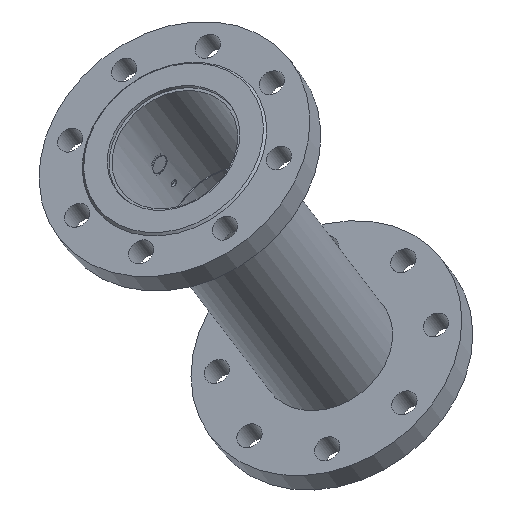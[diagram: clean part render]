
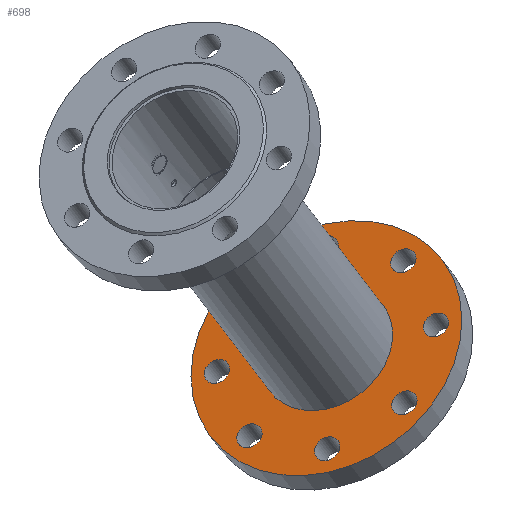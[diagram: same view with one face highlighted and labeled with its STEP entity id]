
A CAD part, isometric view. The second image highlights one B-rep face of the part: STEP entity #698.
In plain terms, the highlighted planar face has unit normal (-0.522, 0, 0.853) as drawn and (0, 0, -1) by its records, which use the part's own axes.
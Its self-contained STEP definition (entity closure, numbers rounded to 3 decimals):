
#698 = ADVANCED_FACE( '', ( #1468, #1469, #1470, #1471, #1472, #1473, #1474, #1475, #1476, #1477 ), #1478, .T. );
#1468 = FACE_BOUND( '', #3957, .T. );
#1469 = FACE_BOUND( '', #3958, .T. );
#1470 = FACE_BOUND( '', #3959, .T. );
#1471 = FACE_BOUND( '', #3960, .T. );
#1472 = FACE_BOUND( '', #3961, .T. );
#1473 = FACE_BOUND( '', #3962, .T. );
#1474 = FACE_BOUND( '', #3963, .T. );
#1475 = FACE_BOUND( '', #3964, .T. );
#1476 = FACE_BOUND( '', #3965, .T. );
#1477 = FACE_OUTER_BOUND( '', #3966, .T. );
#1478 = PLANE( '', #3967 );
#3957 = EDGE_LOOP( '', ( #6861 ) );
#3958 = EDGE_LOOP( '', ( #6862 ) );
#3959 = EDGE_LOOP( '', ( #6863 ) );
#3960 = EDGE_LOOP( '', ( #6864 ) );
#3961 = EDGE_LOOP( '', ( #6865 ) );
#3962 = EDGE_LOOP( '', ( #6866 ) );
#3963 = EDGE_LOOP( '', ( #6867 ) );
#3964 = EDGE_LOOP( '', ( #6868 ) );
#3965 = EDGE_LOOP( '', ( #6869 ) );
#3966 = EDGE_LOOP( '', ( #6870 ) );
#3967 = AXIS2_PLACEMENT_3D( '', #6871, #6872, #6873 );
#6861 = ORIENTED_EDGE( '', *, *, #8488, .F. );
#6862 = ORIENTED_EDGE( '', *, *, #8489, .F. );
#6863 = ORIENTED_EDGE( '', *, *, #8123, .F. );
#6864 = ORIENTED_EDGE( '', *, *, #8116, .F. );
#6865 = ORIENTED_EDGE( '', *, *, #8490, .F. );
#6866 = ORIENTED_EDGE( '', *, *, #8251, .F. );
#6867 = ORIENTED_EDGE( '', *, *, #8491, .F. );
#6868 = ORIENTED_EDGE( '', *, *, #8179, .F. );
#6869 = ORIENTED_EDGE( '', *, *, #8492, .T. );
#6870 = ORIENTED_EDGE( '', *, *, #8306, .F. );
#6871 = CARTESIAN_POINT( '', ( 57.5, 0., 0. ) );
#6872 = DIRECTION( '', ( 0., 0., -1. ) );
#6873 = DIRECTION( '', ( -1., 0., 0. ) );
#8116 = EDGE_CURVE( '', #9022, #9022, #9023, .T. );
#8123 = EDGE_CURVE( '', #9033, #9033, #9034, .T. );
#8179 = EDGE_CURVE( '', #9126, #9126, #9127, .T. );
#8251 = EDGE_CURVE( '', #9239, #9239, #9240, .T. );
#8306 = EDGE_CURVE( '', #9322, #9322, #9323, .T. );
#8488 = EDGE_CURVE( '', #9596, #9596, #9597, .T. );
#8489 = EDGE_CURVE( '', #9598, #9598, #9599, .T. );
#8490 = EDGE_CURVE( '', #9600, #9600, #9601, .T. );
#8491 = EDGE_CURVE( '', #9602, #9602, #9603, .T. );
#8492 = EDGE_CURVE( '', #9604, #9604, #9605, .T. );
#9022 = VERTEX_POINT( '', #10554 );
#9023 = CIRCLE( '', #10555, 11. );
#9033 = VERTEX_POINT( '', #10606 );
#9034 = CIRCLE( '', #10607, 11. );
#9126 = VERTEX_POINT( '', #10803 );
#9127 = CIRCLE( '', #10804, 11. );
#9239 = VERTEX_POINT( '', #11029 );
#9240 = CIRCLE( '', #11030, 11. );
#9322 = VERTEX_POINT( '', #11333 );
#9323 = CIRCLE( '', #11334, 117.5 );
#9596 = VERTEX_POINT( '', #11868 );
#9597 = CIRCLE( '', #11869, 11. );
#9598 = VERTEX_POINT( '', #11870 );
#9599 = CIRCLE( '', #11871, 11. );
#9600 = VERTEX_POINT( '', #11872 );
#9601 = CIRCLE( '', #11873, 11. );
#9602 = VERTEX_POINT( '', #11874 );
#9603 = CIRCLE( '', #11875, 11. );
#9604 = VERTEX_POINT( '', #11876 );
#9605 = CIRCLE( '', #11877, 57.5 );
#10554 = CARTESIAN_POINT( '', ( 56.175, -67.175, 0. ) );
#10555 = AXIS2_PLACEMENT_3D( '', #12901, #12902, #12903 );
#10606 = CARTESIAN_POINT( '', ( -11., -95., 0. ) );
#10607 = AXIS2_PLACEMENT_3D( '', #12907, #12908, #12909 );
#10803 = CARTESIAN_POINT( '', ( -78.175, 67.175, 0. ) );
#10804 = AXIS2_PLACEMENT_3D( '', #13003, #13004, #13005 );
#11029 = CARTESIAN_POINT( '', ( 56.175, 67.175, 0. ) );
#11030 = AXIS2_PLACEMENT_3D( '', #13117, #13118, #13119 );
#11333 = CARTESIAN_POINT( '', ( 117.5, 0., 0. ) );
#11334 = AXIS2_PLACEMENT_3D( '', #13179, #13180, #13181 );
#11868 = CARTESIAN_POINT( '', ( -106., 0., 0. ) );
#11869 = AXIS2_PLACEMENT_3D( '', #13427, #13428, #13429 );
#11870 = CARTESIAN_POINT( '', ( -78.175, -67.175, 0. ) );
#11871 = AXIS2_PLACEMENT_3D( '', #13430, #13431, #13432 );
#11872 = CARTESIAN_POINT( '', ( 84., 0., 0. ) );
#11873 = AXIS2_PLACEMENT_3D( '', #13433, #13434, #13435 );
#11874 = CARTESIAN_POINT( '', ( -11., 95., 0. ) );
#11875 = AXIS2_PLACEMENT_3D( '', #13436, #13437, #13438 );
#11876 = CARTESIAN_POINT( '', ( 57.5, 0., 0. ) );
#11877 = AXIS2_PLACEMENT_3D( '', #13439, #13440, #13441 );
#12901 = CARTESIAN_POINT( '', ( 67.175, -67.175, 0. ) );
#12902 = DIRECTION( '', ( 0., 0., -1. ) );
#12903 = DIRECTION( '', ( -1., 0., 0. ) );
#12907 = CARTESIAN_POINT( '', ( 0., -95., 0. ) );
#12908 = DIRECTION( '', ( 0., 0., -1. ) );
#12909 = DIRECTION( '', ( -1., 0., 0. ) );
#13003 = CARTESIAN_POINT( '', ( -67.175, 67.175, 0. ) );
#13004 = DIRECTION( '', ( 0., 0., -1. ) );
#13005 = DIRECTION( '', ( -1., 0., 0. ) );
#13117 = CARTESIAN_POINT( '', ( 67.175, 67.175, 0. ) );
#13118 = DIRECTION( '', ( 0., 0., -1. ) );
#13119 = DIRECTION( '', ( -1., 0., 0. ) );
#13179 = CARTESIAN_POINT( '', ( 0., 0., 0. ) );
#13180 = DIRECTION( '', ( 0., 0., 1. ) );
#13181 = DIRECTION( '', ( 1., 0., 0. ) );
#13427 = CARTESIAN_POINT( '', ( -95., 0., 0. ) );
#13428 = DIRECTION( '', ( 0., 0., -1. ) );
#13429 = DIRECTION( '', ( -1., 0., 0. ) );
#13430 = CARTESIAN_POINT( '', ( -67.175, -67.175, 0. ) );
#13431 = DIRECTION( '', ( 0., 0., -1. ) );
#13432 = DIRECTION( '', ( -1., 0., 0. ) );
#13433 = CARTESIAN_POINT( '', ( 95., 0., 0. ) );
#13434 = DIRECTION( '', ( 0., 0., -1. ) );
#13435 = DIRECTION( '', ( -1., 0., 0. ) );
#13436 = CARTESIAN_POINT( '', ( 0., 95., 0. ) );
#13437 = DIRECTION( '', ( 0., 0., -1. ) );
#13438 = DIRECTION( '', ( -1., 0., 0. ) );
#13439 = CARTESIAN_POINT( '', ( 0., 0., 0. ) );
#13440 = DIRECTION( '', ( 0., 0., 1. ) );
#13441 = DIRECTION( '', ( 1., 0., 0. ) );
